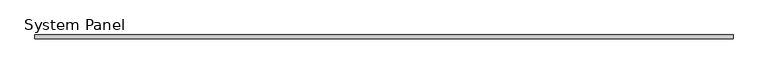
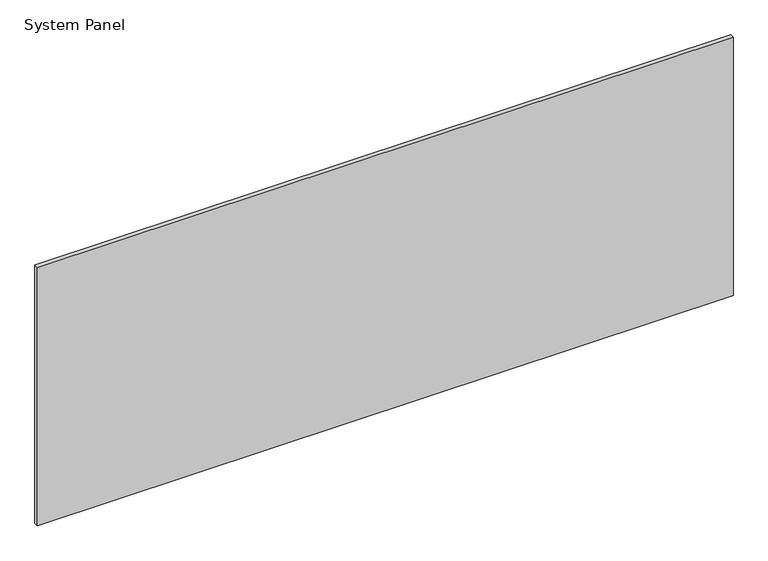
"""IFC4 building model written with IfcOpenShell, lengths in millimetres: plate geometry, System Panel : GUARDA-CORPO DE VIDRO TEMPERADO LAMINADO LISO 16 mm."""

from ifc_helpers import new_model, si_unit, origin, origin_with_axes, place, context, project, spatial, polyline, outline, extrude, source, transform, mapped, element, save


def system_panel_7f4bd75d(model_context):
    return source(origin(), model_context, "Body", "SweptSolid", [
        extrude(outline(polyline([(1400.0, -8.0), (-1400.0, -8.0), (-1400.0, 8.0), (1400.0, 8.0), (1400.0, -8.0)])), origin_with_axes(), (0.0, 0.0, 1.0), 1100.0),
    ])


if __name__ == "__main__":
    model = new_model("IFC4")
    model_context = context("Model", 3, world=origin())
    ifc_project = project(units=[si_unit("LENGTHUNIT", "METRE", prefix="MILLI")], contexts=[model_context])
    site = spatial("IfcSite", under=ifc_project)
    building = spatial("IfcBuilding", under=site)
    placement = place(None, origin())
    system_panel_shape = system_panel_7f4bd75d(model_context)
    element("IfcPlate", 1, ObjectType="System Panel : GUARDA-CORPO DE VIDRO TEMPERADO LAMINADO LISO 16 mm", at=placement, inside=building, context=model_context, shape_type="MappedRepresentation", body=[
        mapped(system_panel_shape, transform((0.0, 0.0, 0.0), x_axis=(1.0, 0.0, 0.0), y_axis=(0.0, 1.0, 0.0), z_axis=(0.0, 0.0, 1.0))),
    ])
    save(model, "model.ifc")
